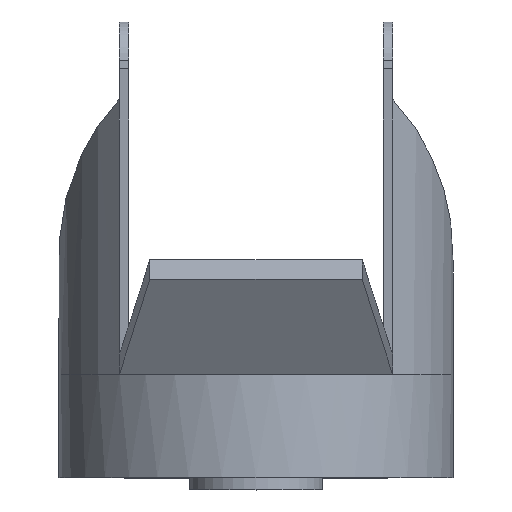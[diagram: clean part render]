
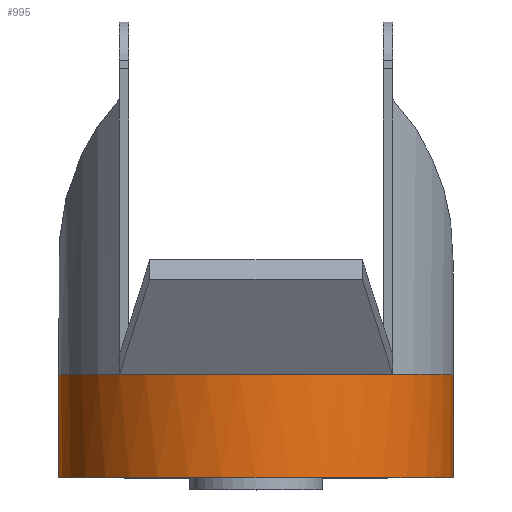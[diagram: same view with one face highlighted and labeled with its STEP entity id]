
A CAD part, top view. The second image highlights one B-rep face of the part: STEP entity #995.
In plain terms, the highlighted cylindrical face has radius 32.5 mm (diameter 65 mm), a partial arc.
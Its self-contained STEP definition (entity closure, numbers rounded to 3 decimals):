
#6=CARTESIAN_POINT('',(0.,0.,0.));
#7=DIRECTION('',(0.,1.,0.));
#8=DIRECTION('',(-1.,0.,0.));
#9=AXIS2_PLACEMENT_3D('',#6,#7,#8);
#26=DIRECTION('',(0.,1.,0.));
#27=VECTOR('',#26,17.);
#28=CARTESIAN_POINT('',(32.5,0.,0.));
#29=LINE('',#28,#27);
#255=CARTESIAN_POINT('',(0.,17.,0.));
#256=DIRECTION('',(0.,1.,0.));
#257=DIRECTION('',(-0.692,0.,0.722));
#258=AXIS2_PLACEMENT_3D('',#255,#256,#257);
#264=CARTESIAN_POINT('',(0.,17.,0.));
#265=DIRECTION('',(0.,1.,0.));
#266=DIRECTION('',(0.692,0.,0.722));
#267=AXIS2_PLACEMENT_3D('',#264,#265,#266);
#269=DIRECTION('',(0.,1.,0.));
#270=VECTOR('',#269,17.);
#271=CARTESIAN_POINT('',(-32.5,0.,0.));
#272=LINE('',#271,#270);
#273=CARTESIAN_POINT('',(0.,17.,0.));
#274=DIRECTION('',(0.,1.,0.));
#275=DIRECTION('',(-1.,0.,0.));
#276=AXIS2_PLACEMENT_3D('',#273,#274,#275);
#492=CARTESIAN_POINT('',(32.5,0.,0.));
#493=CARTESIAN_POINT('',(-32.5,0.,0.));
#494=VERTEX_POINT('',#492);
#495=VERTEX_POINT('',#493);
#504=CARTESIAN_POINT('',(22.5,17.,23.452));
#505=CARTESIAN_POINT('',(32.5,17.,0.));
#506=VERTEX_POINT('',#504);
#507=VERTEX_POINT('',#505);
#508=CARTESIAN_POINT('',(-32.5,17.,0.));
#509=CARTESIAN_POINT('',(-22.5,17.,23.452));
#510=VERTEX_POINT('',#508);
#511=VERTEX_POINT('',#509);
#982=CARTESIAN_POINT('',(0.,0.,0.));
#983=DIRECTION('',(0.,1.,0.));
#984=DIRECTION('',(1.,0.,0.));
#985=AXIS2_PLACEMENT_3D('',#982,#983,#984);
#986=CYLINDRICAL_SURFACE('',#985,32.5);
#987=ORIENTED_EDGE('',*,*,#658,.T.);
#988=ORIENTED_EDGE('',*,*,#656,.F.);
#989=ORIENTED_EDGE('',*,*,#627,.F.);
#990=ORIENTED_EDGE('',*,*,#653,.T.);
#991=ORIENTED_EDGE('',*,*,#651,.T.);
#992=ORIENTED_EDGE('',*,*,#976,.T.);
#993=EDGE_LOOP('',(#987,#988,#989,#990,#991,#992));
#994=FACE_OUTER_BOUND('',#993,.F.);
#995=ADVANCED_FACE('',(#994),#986,.T.);
#10=CIRCLE('',#9,32.5);
#259=CIRCLE('',#258,32.5);
#268=CIRCLE('',#267,32.5);
#277=CIRCLE('',#276,32.5);
#627=EDGE_CURVE('',#495,#494,#10,.T.);
#651=EDGE_CURVE('',#510,#511,#277,.T.);
#653=EDGE_CURVE('',#495,#510,#272,.T.);
#656=EDGE_CURVE('',#494,#507,#29,.T.);
#658=EDGE_CURVE('',#506,#507,#268,.T.);
#976=EDGE_CURVE('',#511,#506,#259,.T.);
